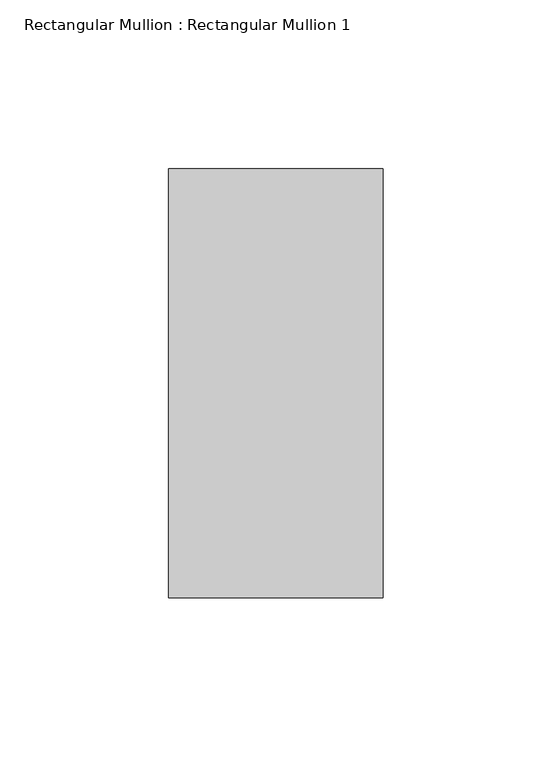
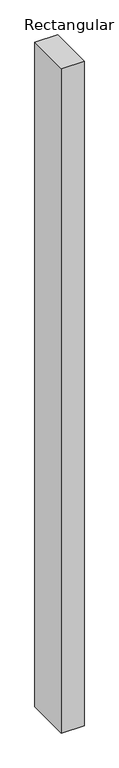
"""IFC4 building model written with IfcOpenShell, lengths in millimetres: member geometry, Rectangular Mullion : Rectangular Mullion 1."""

from ifc_helpers import new_model, si_unit, frame, origin, place, context, project, spatial, polyline, outline, extrude, source, transform, mapped, element, save


def rectangular_mullion_rectangular_mullion_1_c5a7d1f2(model_context):
    return source(origin(), model_context, "Body", "SweptSolid", [
        extrude(outline(polyline([(31.75, 63.5), (31.75, -63.5), (-31.75, -63.5), (-31.75, 63.5), (31.75, 63.5)])), frame((0.0, 0.0, -1955.8), z_axis=(0.0, 0.0, 1.0), x_axis=(1.0, 0.0, 0.0)), (0.0, 0.0, 1.0), 1955.8),
    ])


if __name__ == "__main__":
    model = new_model("IFC4")
    model_context = context("Model", 3, world=origin())
    ifc_project = project(units=[si_unit("LENGTHUNIT", "METRE", prefix="MILLI")], contexts=[model_context])
    site = spatial("IfcSite", under=ifc_project)
    building = spatial("IfcBuilding", under=site)
    placement = place(None, origin())
    rectangular_mullion_rectangular_mullion_1_shape = rectangular_mullion_rectangular_mullion_1_c5a7d1f2(model_context)
    element("IfcMember", 1, ObjectType="Rectangular Mullion : Rectangular Mullion 1", at=placement, inside=building, context=model_context, shape_type="MappedRepresentation", body=[
        mapped(rectangular_mullion_rectangular_mullion_1_shape, transform((0.0, 0.0, 0.0), x_axis=(1.0, 0.0, 0.0), y_axis=(0.0, 1.0, 0.0), z_axis=(0.0, 0.0, 1.0))),
    ])
    save(model, "model.ifc")
